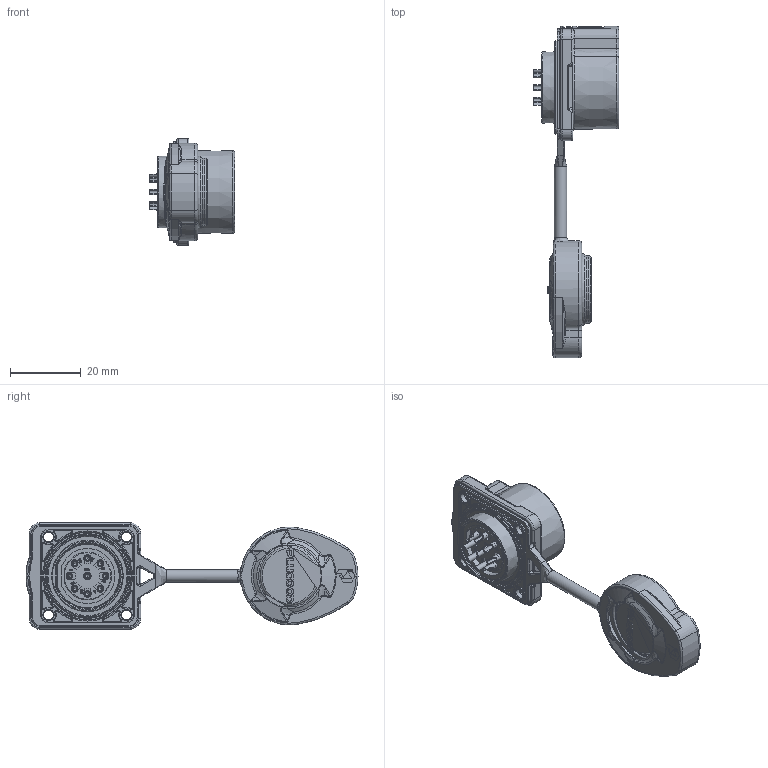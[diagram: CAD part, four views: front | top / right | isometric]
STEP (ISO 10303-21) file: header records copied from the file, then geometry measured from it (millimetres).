
FILE_DESCRIPTION (( 'STEP AP203' ), '1' );
FILE_NAME ('PLG20 9郋侐謂脣釱.STEP', '2025-03-20T00:32:46', ( '' ), ( '' ), 'SwSTEP 2.0', 'SolidWorks 2024', '' );
FILE_SCHEMA (( 'CONFIG_CONTROL_DESIGN' ));
Length unit declared in the file: millimetre
Products named in the file (1): PLG20 9芯四孔插座
Bounding box: 24.1 x 93.64 x 30 mm (x, y, z)
Volume: 12546.1 mm3; surface area: 10368.4 mm2
Topology: 1 solids, 9 shells, 1574 faces, 3900 edges, 2437 vertices
Faces by surface type: plane 497, cylinder 400, bspline 379, torus 210, cone 72, sphere 16
Full cylindrical faces by diameter (mm): 1.061 x1, 1.1 x9, 1.15 x9, 1.65 x9, 1.75 x9, 2.088 x1, 2.1 x1, 2.8 x4, 3.3 x4, 3.5 x1, 6 x4, 16.5 x1, 19.1 x1, 19.5 x3, 22.3 x1, 23.5 x1, 25 x1
Entity records: 60053 total; most frequent: CARTESIAN_POINT 26129, ORIENTED_EDGE 7448, DIRECTION 6159, EDGE_CURVE 3724, VERTEX_POINT 2392, AXIS2_PLACEMENT_3D 2324, EDGE_LOOP 1814, FACE_OUTER_BOUND 1654
